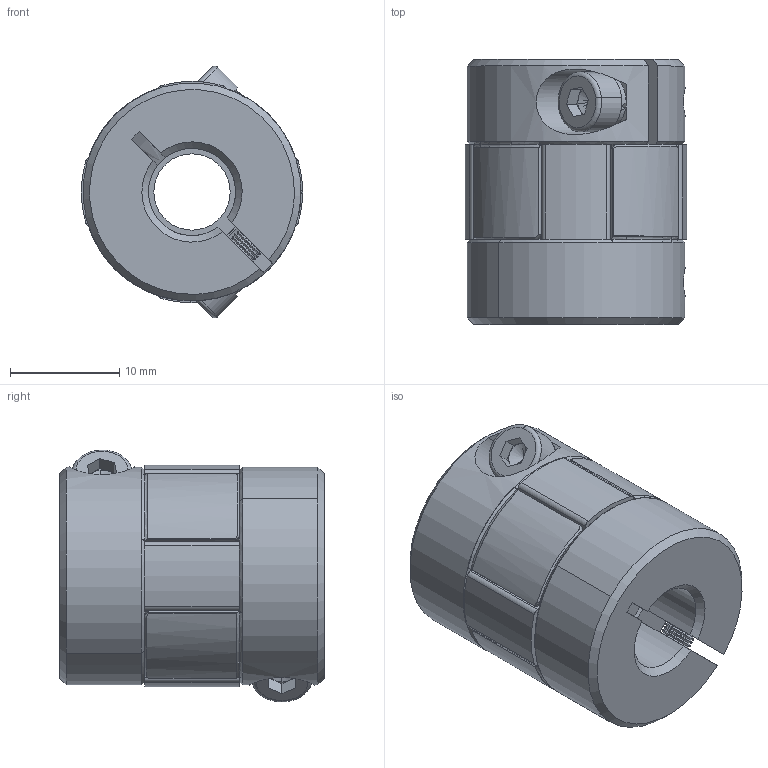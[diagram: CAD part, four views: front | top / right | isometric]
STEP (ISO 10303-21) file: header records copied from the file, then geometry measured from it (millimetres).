
FILE_DESCRIPTION (( 'STEP AP203' ), '1' );
FILE_NAME ('LF-B-D20L25-8-8.STEP', '2021-10-20T01:59:36', ( '' ), ( '' ), 'SwSTEP 2.0', 'SolidWorks 2018', '' );
FILE_SCHEMA (( 'CONFIG_CONTROL_DESIGN' ));
Length unit declared in the file: millimetre
Products named in the file (1): LF-B-D20L25-8-8
Bounding box: 20.31 x 24.3 x 23.09 mm (x, y, z)
Volume: 6274.9 mm3; surface area: 3584.6 mm2
Topology: 1 solids, 1 shells, 429 faces, 1068 edges, 633 vertices
Faces by surface type: cylinder 167, cone 158, plane 92, torus 12
Entity records: 13098 total; most frequent: CARTESIAN_POINT 2717, DIRECTION 2315, ORIENTED_EDGE 2128, EDGE_CURVE 1064, AXIS2_PLACEMENT_3D 953, VERTEX_POINT 633, CIRCLE 523, EDGE_LOOP 447
